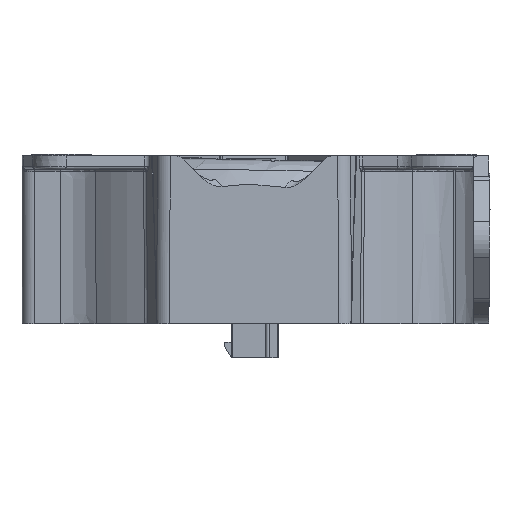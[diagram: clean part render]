
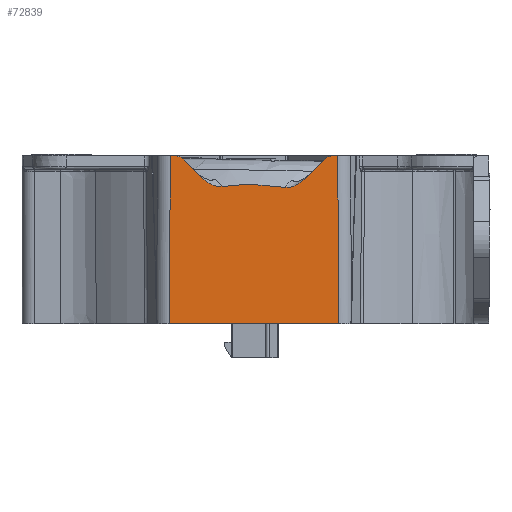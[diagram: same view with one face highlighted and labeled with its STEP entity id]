
A CAD part, left-side view. The second image highlights one B-rep face of the part: STEP entity #72839.
In plain terms, the highlighted planar face has unit normal (-1, 0, 0.009).
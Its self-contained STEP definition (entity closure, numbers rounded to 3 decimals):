
#1167=DIRECTION('',(0.,-1.,0.));
#1168=VECTOR('',#1167,34.273);
#1169=CARTESIAN_POINT('',(-39.866,-84.335,
-436.484));
#1170=LINE('',#1169,#1168);
#5314=DIRECTION('',(0.,1.,0.));
#5315=VECTOR('',#5314,0.703);
#5316=CARTESIAN_POINT('',(-39.57,-118.437,
-402.484));
#5317=LINE('',#5316,#5315);
#5379=DIRECTION('',(0.,1.,0.));
#5380=VECTOR('',#5379,0.703);
#5381=CARTESIAN_POINT('',(-39.57,-85.209,
-402.484));
#5382=LINE('',#5381,#5380);
#10717=DIRECTION('',(-0.009,-0.005,-1.));
#10718=VECTOR('',#10717,34.002);
#10719=CARTESIAN_POINT('',(-39.57,-118.437,
-402.484));
#10720=LINE('',#10719,#10718);
#10721=DIRECTION('',(0.009,-0.005,1.));
#10722=VECTOR('',#10721,34.002);
#10723=CARTESIAN_POINT('',(-39.866,-84.335,
-436.484));
#10724=LINE('',#10723,#10722);
#10731=CARTESIAN_POINT('',(-39.57,-84.507,
-402.484));
#10733=CARTESIAN_POINT('',(-39.866,-84.335,
-436.484));
#26651=CARTESIAN_POINT('',(-39.577,-87.331,
-403.363));
#26652=CARTESIAN_POINT('',(-39.576,-87.184,
-403.216));
#26653=CARTESIAN_POINT('',(-39.574,-86.874,
-402.965));
#26654=CARTESIAN_POINT('',(-39.572,-86.364,
-402.695));
#26655=CARTESIAN_POINT('',(-39.57,-85.813,
-402.526));
#26656=CARTESIAN_POINT('',(-39.57,-85.416,
-402.484));
#26657=CARTESIAN_POINT('',(-39.57,-85.209,
-402.484));
#26672=DIRECTION('',(0.006,0.707,0.707));
#26673=VECTOR('',#26672,4.932);
#26674=CARTESIAN_POINT('',(-39.608,-90.818,
-406.85));
#26675=LINE('',#26674,#26673);
#26736=CARTESIAN_POINT('',(-39.625,-107.666,
-408.874));
#26737=CARTESIAN_POINT('',(-39.625,-107.195,
-408.804));
#26738=CARTESIAN_POINT('',(-39.624,-106.254,
-408.677));
#26739=CARTESIAN_POINT('',(-39.622,-104.85,
-408.53));
#26740=CARTESIAN_POINT('',(-39.622,-103.451,
-408.426));
#26741=CARTESIAN_POINT('',(-39.621,-102.052,
-408.363));
#26742=CARTESIAN_POINT('',(-39.621,-100.654,
-408.342));
#26743=CARTESIAN_POINT('',(-39.621,-99.255,
-408.364));
#26744=CARTESIAN_POINT('',(-39.622,-97.854,
-408.428));
#26745=CARTESIAN_POINT('',(-39.622,-96.447,
-408.535));
#26746=CARTESIAN_POINT('',(-39.623,-95.506,
-408.634));
#26747=CARTESIAN_POINT('',(-39.624,-95.035,
-408.691));
#26834=CARTESIAN_POINT('',(-39.624,-95.035,
-408.691));
#26835=CARTESIAN_POINT('',(-39.624,-94.958,
-408.701));
#26836=CARTESIAN_POINT('',(-39.624,-94.8,
-408.713));
#26837=CARTESIAN_POINT('',(-39.624,-94.545,
-408.713));
#26838=CARTESIAN_POINT('',(-39.624,-94.274,
-408.692));
#26839=CARTESIAN_POINT('',(-39.623,-93.984,
-408.648));
#26840=CARTESIAN_POINT('',(-39.623,-93.673,
-408.577));
#26841=CARTESIAN_POINT('',(-39.622,-93.341,
-408.476));
#26842=CARTESIAN_POINT('',(-39.621,-92.993,
-408.344));
#26843=CARTESIAN_POINT('',(-39.619,-92.633,
-408.178));
#26844=CARTESIAN_POINT('',(-39.618,-92.262,
-407.977));
#26845=CARTESIAN_POINT('',(-39.616,-91.888,
-407.741));
#26846=CARTESIAN_POINT('',(-39.613,-91.517,
-407.473));
#26847=CARTESIAN_POINT('',(-39.611,-91.157,
-407.175));
#26848=CARTESIAN_POINT('',(-39.609,-90.929,
-406.961));
#26849=CARTESIAN_POINT('',(-39.608,-90.818,
-406.85));
#27441=CARTESIAN_POINT('',(-39.61,-111.883,
-407.093));
#27450=DIRECTION('',(-0.006,0.707,-0.707));
#27451=VECTOR('',#27450,5.275);
#27452=CARTESIAN_POINT('',(-39.577,-115.613,
-403.363));
#27453=LINE('',#27452,#27451);
#27454=CARTESIAN_POINT('',(-39.61,-111.883,
-407.093));
#27455=CARTESIAN_POINT('',(-39.611,-111.772,
-407.203));
#27456=CARTESIAN_POINT('',(-39.613,-111.545,
-407.416));
#27457=CARTESIAN_POINT('',(-39.615,-111.184,
-407.713));
#27458=CARTESIAN_POINT('',(-39.618,-110.812,
-407.979));
#27459=CARTESIAN_POINT('',(-39.62,-110.435,
-408.213));
#27460=CARTESIAN_POINT('',(-39.621,-110.063,
-408.41));
#27461=CARTESIAN_POINT('',(-39.623,-109.703,
-408.57));
#27462=CARTESIAN_POINT('',(-39.624,-109.355,
-408.697));
#27463=CARTESIAN_POINT('',(-39.625,-109.025,
-408.791));
#27464=CARTESIAN_POINT('',(-39.625,-108.715,
-408.856));
#27465=CARTESIAN_POINT('',(-39.626,-108.427,
-408.894));
#27466=CARTESIAN_POINT('',(-39.626,-108.156,
-408.909));
#27467=CARTESIAN_POINT('',(-39.626,-107.902,
-408.903));
#27468=CARTESIAN_POINT('',(-39.626,-107.743,
-408.886));
#27469=CARTESIAN_POINT('',(-39.625,-107.666,
-408.874));
#27550=CARTESIAN_POINT('',(-39.57,-117.735,
-402.484));
#27551=CARTESIAN_POINT('',(-39.57,-117.527,
-402.484));
#27552=CARTESIAN_POINT('',(-39.57,-117.131,
-402.526));
#27553=CARTESIAN_POINT('',(-39.572,-116.58,
-402.695));
#27554=CARTESIAN_POINT('',(-39.574,-116.07,
-402.965));
#27555=CARTESIAN_POINT('',(-39.576,-115.76,
-403.216));
#27556=CARTESIAN_POINT('',(-39.577,-115.613,
-403.363));
#45013=VERTEX_POINT('',#10731);
#45016=VERTEX_POINT('',#10733);
#45017=CARTESIAN_POINT('',(-39.866,-118.609,
-436.484));
#45018=VERTEX_POINT('',#45017);
#45019=CARTESIAN_POINT('',(-39.57,-118.437,
-402.484));
#45020=VERTEX_POINT('',#45019);
#47676=CARTESIAN_POINT('',(-39.57,-117.735,
-402.484));
#47677=VERTEX_POINT('',#47676);
#47678=VERTEX_POINT('',#27556);
#47684=VERTEX_POINT('',#27441);
#47685=VERTEX_POINT('',#27469);
#47686=VERTEX_POINT('',#26747);
#47687=VERTEX_POINT('',#26849);
#47761=CARTESIAN_POINT('',(-39.57,-85.209,
-402.484));
#47762=VERTEX_POINT('',#47761);
#47763=VERTEX_POINT('',#26651);
#72812=CARTESIAN_POINT('',(-39.866,-75.426,
-436.484));
#72813=DIRECTION('',(-1.,0.,0.009));
#72814=DIRECTION('',(0.,1.,0.));
#72815=AXIS2_PLACEMENT_3D('',#72812,#72813,#72814);
#72816=PLANE('',#72815);
#72817=ORIENTED_EDGE('',*,*,#72803,.T.);
#72818=ORIENTED_EDGE('',*,*,#51230,.F.);
#72820=ORIENTED_EDGE('',*,*,#72819,.T.);
#72821=ORIENTED_EDGE('',*,*,#59598,.F.);
#72823=ORIENTED_EDGE('',*,*,#72822,.F.);
#72825=ORIENTED_EDGE('',*,*,#72824,.F.);
#72827=ORIENTED_EDGE('',*,*,#72826,.F.);
#72829=ORIENTED_EDGE('',*,*,#72828,.F.);
#72831=ORIENTED_EDGE('',*,*,#72830,.F.);
#72833=ORIENTED_EDGE('',*,*,#72832,.F.);
#72835=ORIENTED_EDGE('',*,*,#72834,.F.);
#72836=ORIENTED_EDGE('',*,*,#59560,.F.);
#72837=EDGE_LOOP('',(#72817,#72818,#72820,#72821,#72823,#72825,#72827,#72829,
#72831,#72833,#72835,#72836));
#72838=FACE_OUTER_BOUND('',#72837,.F.);
#72839=ADVANCED_FACE('',(#72838),#72816,.T.);
#26658=B_SPLINE_CURVE_WITH_KNOTS('',3,(#26651,#26652,#26653,#26654,#26655,
#26656,#26657),.UNSPECIFIED.,.F.,.F.,(4,1,1,1,4),(0.,0.25,0.5,0.75,
1.),.UNSPECIFIED.);
#26748=B_SPLINE_CURVE_WITH_KNOTS('',3,(#26736,#26737,#26738,#26739,#26740,
#26741,#26742,#26743,#26744,#26745,#26746,#26747),.UNSPECIFIED.,.F.,.F.,(4,1,1,
1,1,1,1,1,1,4),(0.,0.111,0.222,0.333,
0.444,0.556,0.667,0.778,
0.889,1.),.UNSPECIFIED.);
#26850=B_SPLINE_CURVE_WITH_KNOTS('',3,(#26834,#26835,#26836,#26837,#26838,
#26839,#26840,#26841,#26842,#26843,#26844,#26845,#26846,#26847,#26848,#26849),
.UNSPECIFIED.,.F.,.F.,(4,1,1,1,1,1,1,1,1,1,1,1,1,4),(0.,0.077,
0.154,0.231,0.308,0.385,
0.462,0.538,0.615,0.692,
0.769,0.846,0.923,1.),.UNSPECIFIED.);
#27470=B_SPLINE_CURVE_WITH_KNOTS('',3,(#27454,#27455,#27456,#27457,#27458,
#27459,#27460,#27461,#27462,#27463,#27464,#27465,#27466,#27467,#27468,#27469),
.UNSPECIFIED.,.F.,.F.,(4,1,1,1,1,1,1,1,1,1,1,1,1,4),(0.,0.077,
0.154,0.231,0.308,0.385,
0.462,0.538,0.615,0.692,
0.769,0.846,0.923,1.),.UNSPECIFIED.);
#27557=B_SPLINE_CURVE_WITH_KNOTS('',3,(#27550,#27551,#27552,#27553,#27554,
#27555,#27556),.UNSPECIFIED.,.F.,.F.,(4,1,1,1,4),(0.,0.25,0.5,0.75,
1.),.UNSPECIFIED.);
#51230=EDGE_CURVE('',#45016,#45018,#1170,.T.);
#59560=EDGE_CURVE('',#45020,#47677,#5317,.T.);
#59598=EDGE_CURVE('',#47762,#45013,#5382,.T.);
#72803=EDGE_CURVE('',#45020,#45018,#10720,.T.);
#72819=EDGE_CURVE('',#45016,#45013,#10724,.T.);
#72822=EDGE_CURVE('',#47763,#47762,#26658,.T.);
#72824=EDGE_CURVE('',#47687,#47763,#26675,.T.);
#72826=EDGE_CURVE('',#47686,#47687,#26850,.T.);
#72828=EDGE_CURVE('',#47685,#47686,#26748,.T.);
#72830=EDGE_CURVE('',#47684,#47685,#27470,.T.);
#72832=EDGE_CURVE('',#47678,#47684,#27453,.T.);
#72834=EDGE_CURVE('',#47677,#47678,#27557,.T.);
